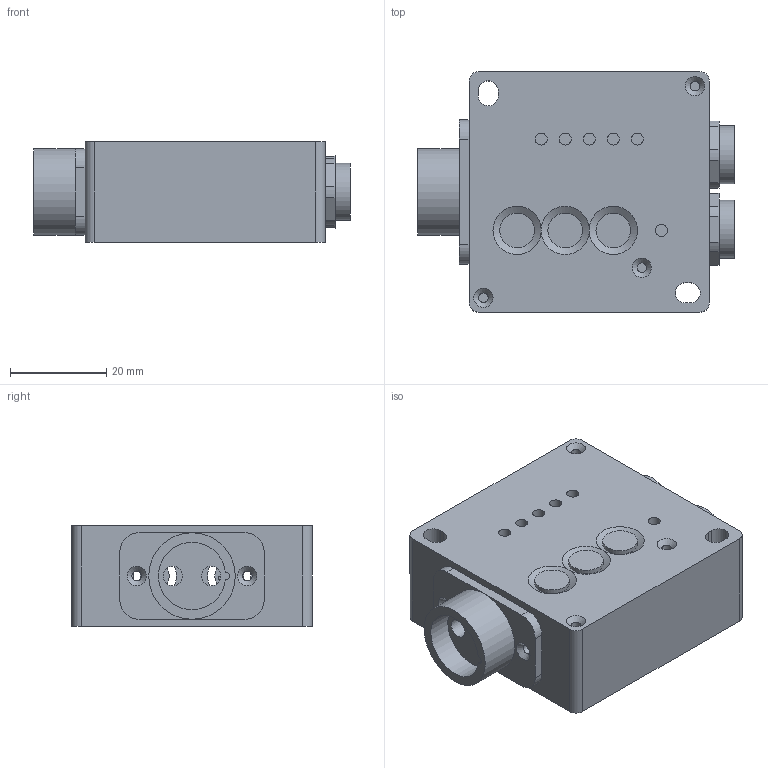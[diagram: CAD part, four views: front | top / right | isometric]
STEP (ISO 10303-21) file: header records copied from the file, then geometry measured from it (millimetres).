
FILE_DESCRIPTION(('STEP Model'),'2;1');
FILE_NAME('CR100.stp','2011-05-16T15:31:24',(''),(''), 'CAD Exchanger 2.2.1 (www.cadexchanger.com)','CAD Exchanger 2.2.1', 'Unknown');
FILE_SCHEMA(('AUTOMOTIVE_DESIGN { 1 0 10303 214 1 1 1 1 }'));
Length unit declared in the file: millimetre
Products named in the file (1): Unspecified 1
Bounding box: 65.9 x 50 x 21 mm (x, y, z)
Volume: 17852.9 mm3; surface area: 19384 mm2
Topology: 3 solids, 3 shells, 187 faces, 449 edges, 302 vertices
Faces by surface type: cylinder 90, plane 86, cone 11
Full cylindrical faces by diameter (mm): 0.66 x12, 1.6 x2, 2 x5, 2.5 x6, 3.8 x2, 4 x2, 6 x2, 7.2 x6, 9 x2, 12.1 x2, 18 x1
Entity records: 14094 total; most frequent: CARTESIAN_POINT 5607, DIRECTION 1431, ORIENTED_EDGE 898, PCURVE 898, DEFINITIONAL_REPRESENTATION 898, LINE 532, VECTOR 532, EDGE_CURVE 449
